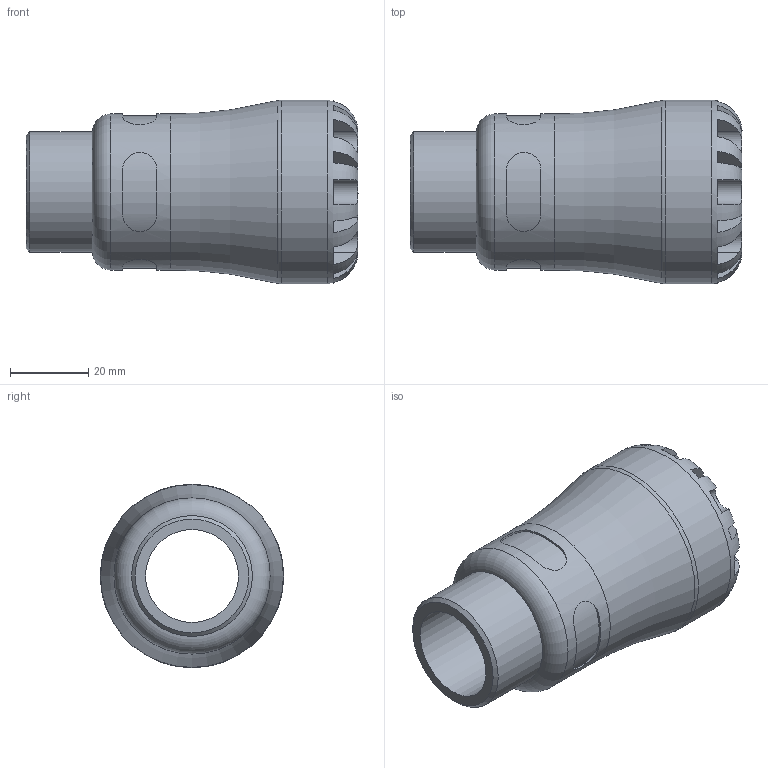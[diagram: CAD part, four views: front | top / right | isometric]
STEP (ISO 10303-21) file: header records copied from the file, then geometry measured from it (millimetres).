
FILE_DESCRIPTION(/* description */ ('PLASSON MALE INTEGRAL BRASS THREAD 25X1" SERIES 1'),/* implementation_level */ '2;1');
FILE_NAME(/* name */ 'C:\Dropbox\KIMPROJECTS-Inventor\99-16-3568-Processing\1072\107200025010_197200025010.ipt.stp',/* time_stamp */ '2017-01-22T10:48:49+02:00',/* author */ ('KIM'),/* organization */ (''),/* preprocessor_version */ 'ST-DEVELOPER v15.6',/* originating_system */ 'Autodesk Inventor 2015',/* authorisation */ '');
FILE_SCHEMA (('AUTOMOTIVE_DESIGN { 1 0 10303 214 3 1 1 }'));
Length unit declared in the file: millimetre
Products named in the file (1): 107200025010_197200025010
Bounding box: 85 x 47 x 47 mm (x, y, z)
Volume: 67095 mm3; surface area: 19907.5 mm2
Topology: 1 solids, 1 shells, 98 faces, 246 edges, 154 vertices
Faces by surface type: plane 59, cylinder 33, torus 4, cone 2
Full cylindrical faces by diameter (mm): 23.788 x1, 25 x1, 30.931 x1, 39.95 x1, 47 x1
Entity records: 3730 total; most frequent: CARTESIAN_POINT 1399, ORIENTED_EDGE 458, DIRECTION 448, EDGE_CURVE 229, AXIS2_PLACEMENT_3D 184, VERTEX_POINT 149, EDGE_LOOP 116, STYLED_ITEM 99
